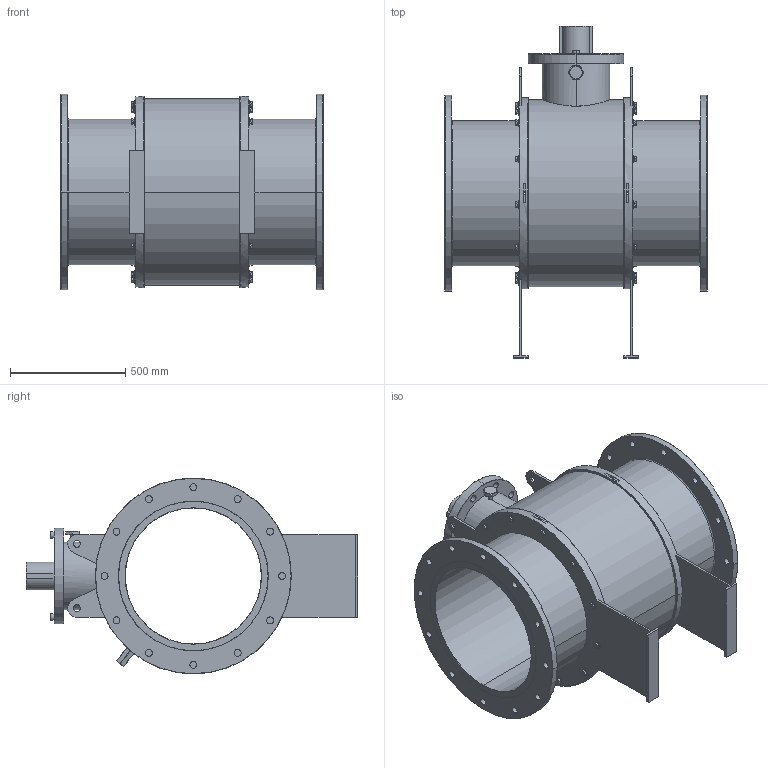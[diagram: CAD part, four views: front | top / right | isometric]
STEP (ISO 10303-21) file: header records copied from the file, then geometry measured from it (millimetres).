
FILE_DESCRIPTION (( 'STEP AP203' ), '1' );
FILE_NAME ('GB2_ANSI_300_24IN_TW.STEP', '2025-10-10T19:24:10', ( '' ), ( '' ), 'SwSTEP 2.0', 'SolidWorks 2025', '' );
FILE_SCHEMA (( 'CONFIG_CONTROL_DESIGN' ));
Length unit declared in the file: millimetre
Products named in the file (3): hex flange screw_am_B18.2.3.4M - Hex flange screw, M16 x 2.0 x 25 --25N; GB2_ANSI_300_24IN_TW; GB2_ANSI_2500_1500_ANSI_300_24IN
Assembly tree (25 placements, depth 2):
  GB2_ANSI_300_24IN_TW
    GB2_ANSI_2500_1500_ANSI_300_24IN
    hex flange screw_am_B18.2.3.4M - Hex flange screw, M16 x 2.0 x 25 --25N  x24
Bounding box: 1143 x 1441.5 x 851 mm (x, y, z)
Volume: 183499353 mm3; surface area: 7577560.9 mm2
Topology: 25 solids, 25 shells, 1041 faces, 2326 edges, 1392 vertices
Faces by surface type: plane 325, cone 270, cylinder 230, bspline 156, torus 54, sphere 6
Entity records: 14007 total; most frequent: CARTESIAN_POINT 3990, DIRECTION 2022, ORIENTED_EDGE 1792, EDGE_CURVE 896, AXIS2_PLACEMENT_3D 820, VERTEX_POINT 562, EDGE_LOOP 492, CIRCLE 436
